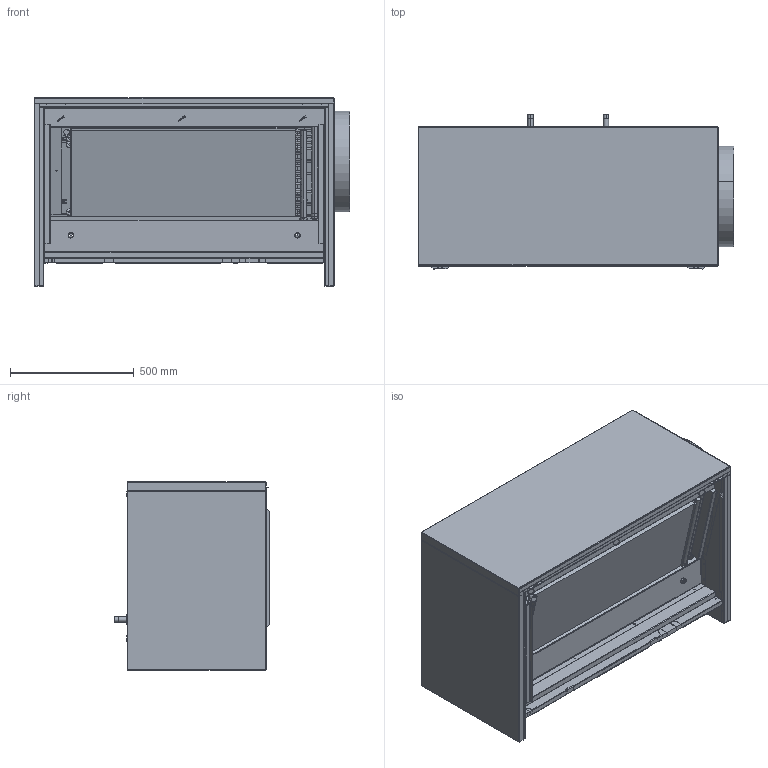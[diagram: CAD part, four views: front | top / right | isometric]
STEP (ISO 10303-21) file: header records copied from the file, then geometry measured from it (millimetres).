
FILE_DESCRIPTION (( 'STEP AP214' ), '1' );
FILE_NAME ('IPB16R22HW.STEP', '2022-05-23T16:10:00', ( '' ), ( '' ), 'SwSTEP 2.0', 'SolidWorks 2022', '' );
FILE_SCHEMA (( 'AUTOMOTIVE_DESIGN' ));
Length unit declared in the file: inch
Products named in the file (1): IPB16R22HW
Bounding box: 1273.28 x 628.47 x 759.62 mm (x, y, z)
Surface area: 13855980.7 mm2 (no closed solid volume)
Topology: 0 solids, 128 shells, 701 faces, 3340 edges, 2692 vertices
Faces by surface type: plane 338, cylinder 268, torus 78, cone 10, bspline 7
Entity records: 47242 total; most frequent: CARTESIAN_POINT 10497, DIRECTION 6197, ORIENTED_EDGE 4342, EDGE_CURVE 3340, VERTEX_POINT 2692, AXIS2_PLACEMENT_3D 2380, CIRCLE 1685, LINE 1437
